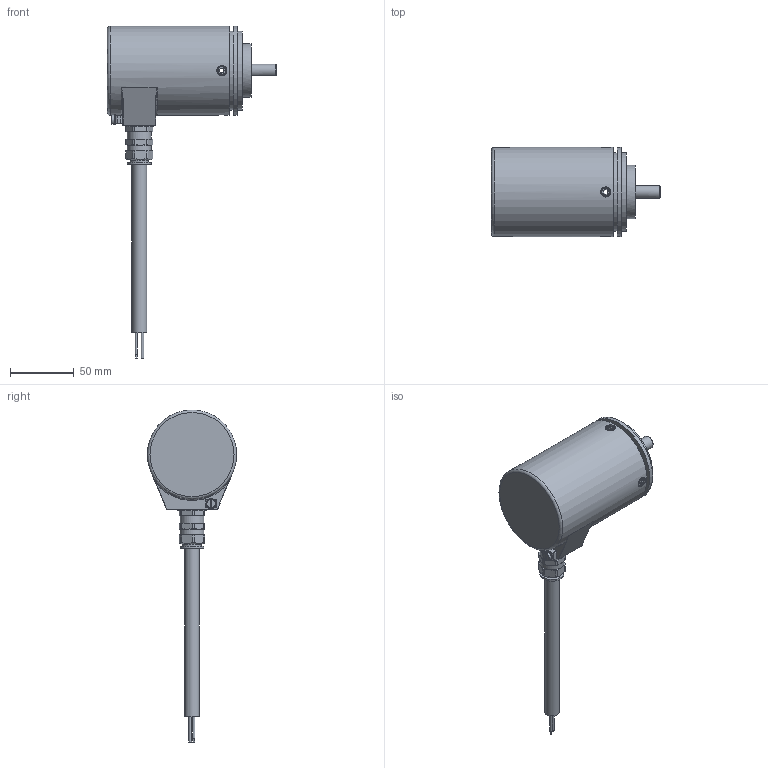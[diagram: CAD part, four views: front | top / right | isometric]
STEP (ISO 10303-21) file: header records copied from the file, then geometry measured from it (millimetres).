
FILE_DESCRIPTION (( 'STEP AP214' ), '1' );
FILE_NAME ('8.7000.12XB.XXXX.STEP', '2014-10-24T11:53:48', ( 'HeirlerN' ), ( 'Microsoft' ), 'SwSTEP 2.0', 'SolidWorks 2013', '' );
FILE_SCHEMA (( 'AUTOMOTIVE_DESIGN' ));
Length unit declared in the file: millimetre
Products named in the file (1): 8.7000.12XB.XXXX
Bounding box: 132.7 x 70 x 260.6 mm (x, y, z)
Surface area: 47923.9 mm2 (no closed solid volume)
Topology: 0 solids, 21 shells, 246 faces, 611 edges, 388 vertices
Faces by surface type: plane 125, cylinder 86, cone 20, torus 11, bspline 4
Full cylindrical faces by diameter (mm): 1.2 x1, 1.8 x1, 2.1 x1, 3.3 x9, 7 x2, 7.7 x1, 8 x8, 9.1 x1, 9.5 x1, 10 x1, 11.5 x1, 12 x1, 12.2 x1, 14.5 x1, 18.7 x1, 18.8 x2, 22 x1, 23 x1, 28 x1, 36 x1, 42 x1, 62 x2, 70 x2
Entity records: 10585 total; most frequent: CARTESIAN_POINT 2483, DIRECTION 1118, ORIENTED_EDGE 922, EDGE_CURVE 525, AXIS2_PLACEMENT_3D 420, VERTEX_POINT 375, EDGE_LOOP 359, FACE_OUTER_BOUND 295
